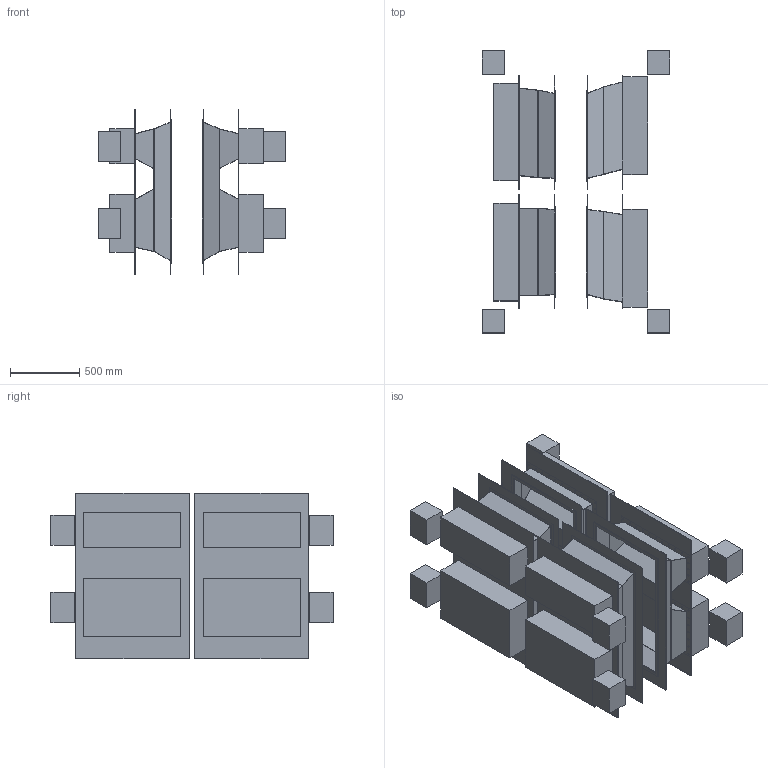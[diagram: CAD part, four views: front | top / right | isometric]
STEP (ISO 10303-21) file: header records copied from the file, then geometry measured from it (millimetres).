
FILE_DESCRIPTION(('Open CASCADE Model'),'2;1');
FILE_NAME('Open CASCADE Shape Model','2026-11-05T06:11:45',('Author'),( 'Open CASCADE'),'Open CASCADE STEP processor 7.9','Open CASCADE 7.9' ,'Unknown');
FILE_SCHEMA(('AUTOMOTIVE_DESIGN { 1 0 10303 214 1 1 1 1 }'));
Length unit declared in the file: millimetre
Products named in the file (81): C03_DUCTS_AND_DAMPERS; A_F_C04_APERTURE; A_F_C04_SEAL; A_F_COMMON_FLOOR; A_F_COMMON_LEFT; A_F_COMMON_RIGHT; A_F_COMMON_ROOF; A_F_DUAL_PORT_PLATE; A_F_MERGE_WEB; A_F_P_DAMPER; A_F_P_DRIVE; A_F_P_FLOOR; A_F_P_LEFT; A_F_P_RIGHT; A_F_P_ROOF; A_F_R_DAMPER; A_F_R_DRIVE; A_F_R_FLOOR; A_F_R_LEFT; A_F_R_RIGHT; A_F_R_ROOF; A_R_C04_APERTURE; A_R_C04_SEAL; A_R_COMMON_FLOOR; A_R_COMMON_LEFT; A_R_COMMON_RIGHT; A_R_COMMON_ROOF; A_R_DUAL_PORT_PLATE; A_R_MERGE_WEB; A_R_P_DAMPER; A_R_P_DRIVE; A_R_P_FLOOR; A_R_P_LEFT; A_R_P_RIGHT; A_R_P_ROOF; A_R_R_DAMPER; A_R_R_DRIVE; A_R_R_FLOOR; A_R_R_LEFT; A_R_R_RIGHT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
Assembly tree (80 placements, depth 2):
  C03_DUCTS_AND_DAMPERS
    A_F_C04_APERTURE
    A_F_C04_SEAL
    A_F_COMMON_FLOOR
    A_F_COMMON_LEFT
    A_F_COMMON_RIGHT
    A_F_COMMON_ROOF
    A_F_DUAL_PORT_PLATE
    A_F_MERGE_WEB
    A_F_P_DAMPER
    A_F_P_DRIVE
    A_F_P_FLOOR
    A_F_P_LEFT
    A_F_P_RIGHT
    A_F_P_ROOF
    A_F_R_DAMPER
    A_F_R_DRIVE
    A_F_R_FLOOR
    A_F_R_LEFT
    A_F_R_RIGHT
    A_F_R_ROOF
    A_R_C04_APERTURE
    A_R_C04_SEAL
    A_R_COMMON_FLOOR
    A_R_COMMON_LEFT
    A_R_COMMON_RIGHT
    A_R_COMMON_ROOF
    A_R_DUAL_PORT_PLATE
    A_R_MERGE_WEB
    A_R_P_DAMPER
    A_R_P_DRIVE
    A_R_P_FLOOR
    A_R_P_LEFT
    A_R_P_RIGHT
    A_R_P_ROOF
    A_R_R_DAMPER
    A_R_R_DRIVE
    A_R_R_FLOOR
    A_R_R_LEFT
    A_R_R_RIGHT
    A_R_R_ROOF
    B_F_C04_APERTURE
    B_F_C04_SEAL
    B_F_COMMON_FLOOR
    B_F_COMMON_LEFT
    B_F_COMMON_RIGHT
    B_F_COMMON_ROOF
    B_F_DUAL_PORT_PLATE
    B_F_MERGE_WEB
    B_F_P_DAMPER
    B_F_P_DRIVE
    B_F_P_FLOOR
    B_F_P_LEFT
    B_F_P_RIGHT
    B_F_P_ROOF
    B_F_R_DAMPER
    B_F_R_DRIVE
    B_F_R_FLOOR
    B_F_R_LEFT
    B_F_R_RIGHT
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Bounding box: 1355 x 2040 x 1198.5 mm (x, y, z)
Volume: 410175935.6 mm3; surface area: 25805293.6 mm2
Topology: 80 solids, 80 shells, 816 faces, 1968 edges, 1312 vertices
Faces by surface type: plane 400, cylinder 240, bspline 176
Full cylindrical faces by diameter (mm): 9 x240
Entity records: 51670 total; most frequent: CARTESIAN_POINT 9313, DIRECTION 7154, LINE 4272, VECTOR 4272, ORIENTED_EDGE 3936, PCURVE 3936, DEFINITIONAL_REPRESENTATION 3936, EDGE_CURVE 1968
